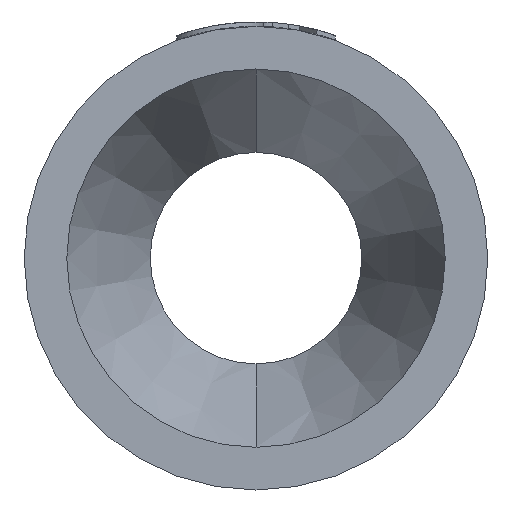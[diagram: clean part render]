
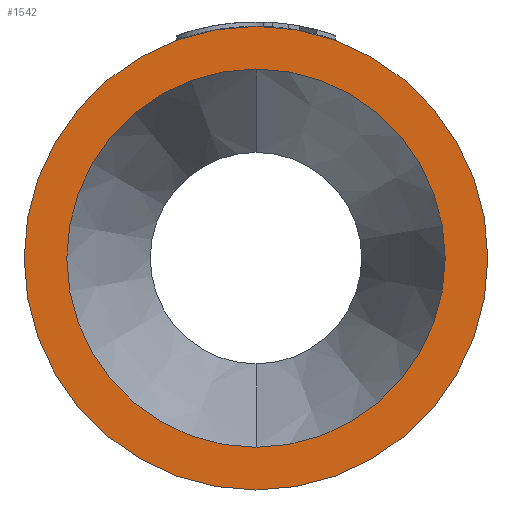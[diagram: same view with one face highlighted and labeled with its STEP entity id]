
A CAD part, left-side view. The second image highlights one B-rep face of the part: STEP entity #1542.
In plain terms, the highlighted planar face has unit normal (-1, 0, 0).
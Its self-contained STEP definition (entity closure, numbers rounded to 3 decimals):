
#87 = CARTESIAN_POINT ( 'NONE',  ( 0., 0., -25. ) ) ;
#97 = EDGE_CURVE ( 'NONE', #989, #410, #3183, .T. ) ;
#182 = EDGE_LOOP ( 'NONE', ( #2571, #2703 ) ) ;
#185 = FACE_OUTER_BOUND ( 'NONE', #2315, .T. ) ;
#208 = FACE_BOUND ( 'NONE', #182, .T. ) ;
#410 = VERTEX_POINT ( 'NONE', #2963 ) ;
#440 = EDGE_CURVE ( 'NONE', #410, #989, #2258, .T. ) ;
#443 = EDGE_CURVE ( 'NONE', #729, #2041, #2189, .T. ) ;
#729 = VERTEX_POINT ( 'NONE', #87 ) ;
#842 = CARTESIAN_POINT ( 'NONE',  ( 0., 0., 25. ) ) ;
#989 = VERTEX_POINT ( 'NONE', #2719 ) ;
#1396 = AXIS2_PLACEMENT_3D ( 'NONE', #1514, #1502, #1499 ) ;
#1499 = DIRECTION ( 'NONE',  ( 0., 0., 1. ) ) ;
#1502 = DIRECTION ( 'NONE',  ( -1., 0., 0. ) ) ;
#1514 = CARTESIAN_POINT ( 'NONE',  ( 0., 0., 0. ) ) ;
#1542 = ADVANCED_FACE ( 'NONE', ( #208, #185 ), #2176, .F. ) ;
#1886 = AXIS2_PLACEMENT_3D ( 'NONE', #2147, #2141, #2114 ) ;
#1908 = ORIENTED_EDGE ( 'NONE', *, *, #443, .T. ) ;
#2041 = VERTEX_POINT ( 'NONE', #842 ) ;
#2066 = DIRECTION ( 'NONE',  ( 0., 0., 1. ) ) ;
#2077 = DIRECTION ( 'NONE',  ( -1., 0., 0. ) ) ;
#2088 = CARTESIAN_POINT ( 'NONE',  ( 0., 0., 0. ) ) ;
#2114 = DIRECTION ( 'NONE',  ( 0., 0., -1. ) ) ;
#2116 = CIRCLE ( 'NONE', #1396, 25. ) ;
#2141 = DIRECTION ( 'NONE',  ( 1., 0., 0. ) ) ;
#2147 = CARTESIAN_POINT ( 'NONE',  ( 0., 20.4, 0. ) ) ;
#2176 = PLANE ( 'NONE',  #1886 ) ;
#2189 = CIRCLE ( 'NONE', #2473, 25. ) ;
#2258 = CIRCLE ( 'NONE', #2485, 20.4 ) ;
#2315 = EDGE_LOOP ( 'NONE', ( #2540, #1908 ) ) ;
#2473 = AXIS2_PLACEMENT_3D ( 'NONE', #2624, #2621, #2616 ) ;
#2485 = AXIS2_PLACEMENT_3D ( 'NONE', #2658, #2653, #2646 ) ;
#2540 = ORIENTED_EDGE ( 'NONE', *, *, #3240, .T. ) ;
#2571 = ORIENTED_EDGE ( 'NONE', *, *, #440, .F. ) ;
#2616 = DIRECTION ( 'NONE',  ( 0., 0., 1. ) ) ;
#2621 = DIRECTION ( 'NONE',  ( -1., 0., 0. ) ) ;
#2624 = CARTESIAN_POINT ( 'NONE',  ( 0., 0., 0. ) ) ;
#2646 = DIRECTION ( 'NONE',  ( 0., 0., 1. ) ) ;
#2653 = DIRECTION ( 'NONE',  ( -1., 0., 0. ) ) ;
#2658 = CARTESIAN_POINT ( 'NONE',  ( 0., 0., 0. ) ) ;
#2703 = ORIENTED_EDGE ( 'NONE', *, *, #97, .F. ) ;
#2719 = CARTESIAN_POINT ( 'NONE',  ( 0., 0., -20.4 ) ) ;
#2950 = AXIS2_PLACEMENT_3D ( 'NONE', #2088, #2077, #2066 ) ;
#2963 = CARTESIAN_POINT ( 'NONE',  ( 0., 0., 20.4 ) ) ;
#3183 = CIRCLE ( 'NONE', #2950, 20.4 ) ;
#3240 = EDGE_CURVE ( 'NONE', #2041, #729, #2116, .T. ) ;
